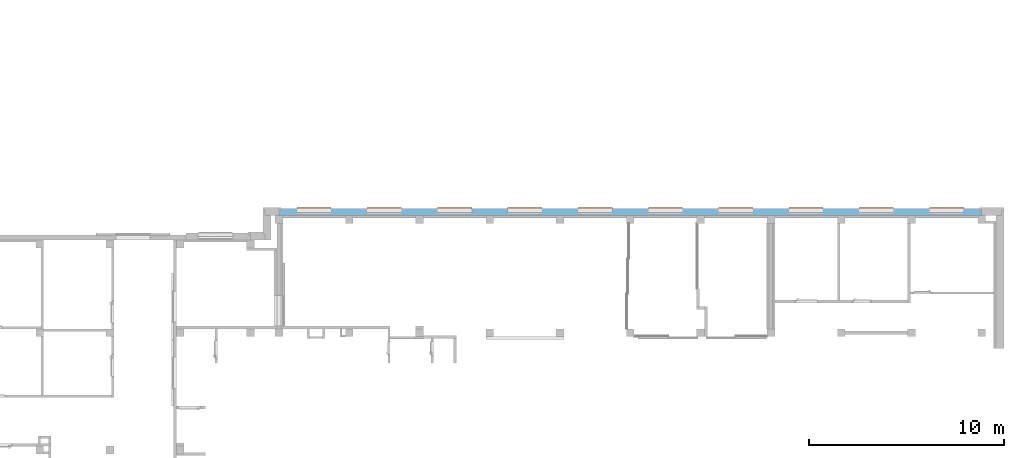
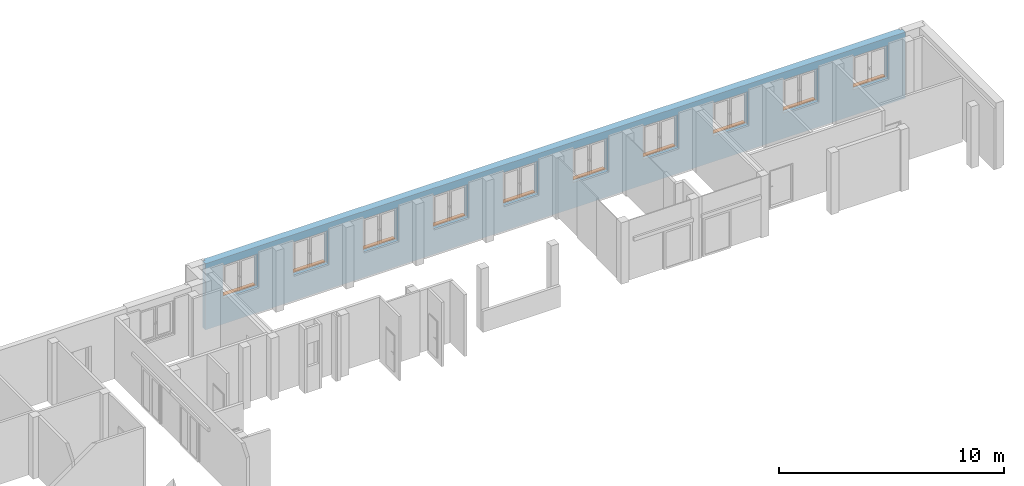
# One storey, part 34 of 37: 10 proxies, 10 openings, plus 1 element that does not belong to this part.
"""IFC4 building model written with IfcOpenShell, lengths in metres."""

import ifcopenshell
import ifcopenshell.guid

model = None  # the IFC model being written
_history = None  # IfcOwnerHistory: only IFC2X3 demands one
_inside = {}  # id of a spatial element -> (the spatial element, [elements in it])
_under = {}  # id of a project, library or spatial element -> (it, [spatial elements below it])
_declared = {}  # id of a project -> (the project, [libraries it declares])
_typed = {}  # id of a type object -> (the type object, [elements of that type])
_made_of = {}  # id of a material, layer set ... -> (it, [elements and type objects made of it])


def new_model(schema):
    """Start an empty IFC model of exactly this schema.

    Asked for "IFC4X3", IfcOpenShell would pick the latest addendum, in which some entities
    have other attributes; the version numbers below select the first issue.
    IFC2X3 requires an IfcOwnerHistory on every rooted entity: one is made here for all.
    """
    global model, _history
    if schema == "IFC4X3":
        model = ifcopenshell.file(schema_version=(4, 3, 0, 0))
    else:
        model = ifcopenshell.file(schema=schema)
    _inside.clear()
    _under.clear()
    _declared.clear()
    _typed.clear()
    _made_of.clear()
    _history = None
    if model.schema == "IFC2X3":
        org = make("IfcOrganization", Name="unknown")
        user = make(
            "IfcPersonAndOrganization",
            ThePerson=make("IfcPerson", FamilyName="unknown"),
            TheOrganization=org,
        )
        app = make(
            "IfcApplication",
            ApplicationDeveloper=org,
            Version="unknown",
            ApplicationFullName="unknown",
            ApplicationIdentifier="unknown",
        )
        _history = make(
            "IfcOwnerHistory",
            OwningUser=user,
            OwningApplication=app,
            ChangeAction="ADDED",
            CreationDate=0,
        )
    return model


def make(cls, **values):
    """One entity of the class cls with the attributes given. An attribute that is None is left unset."""
    return model.create_entity(
        cls, **{name: value for name, value in values.items() if value is not None}
    )


def entity(cls, *values):
    """Any entity or typed value of the class cls, its attributes in the order of the schema. None: left unset."""
    e = model.create_entity(cls)
    for i, value in enumerate(values):
        if value is not None:
            e[i] = value
    return e


def rooted(cls, **values):
    """An entity with a GlobalId (a new one), such as an element, a storey or a relation."""
    return make(cls, GlobalId=ifcopenshell.guid.new(), OwnerHistory=_history, **values)


def si_unit(unit_type, name, prefix=None):
    """IfcSIUnit, for example si_unit("LENGTHUNIT", "METRE", prefix="MILLI")."""
    return make("IfcSIUnit", UnitType=unit_type, Prefix=prefix, Name=name)


def converted_unit(unit_type, name, factor, base, dimensions=None, offset=None):
    """IfcConversionBasedUnit, such as the inch: factor (a typed value) times the base unit."""
    return make(
        "IfcConversionBasedUnit"
        if offset is None
        else "IfcConversionBasedUnitWithOffset",
        ConversionOffset=offset,
        Dimensions=None
        if dimensions is None
        else entity("IfcDimensionalExponents", *dimensions),
        UnitType=unit_type,
        Name=name,
        ConversionFactor=make(
            "IfcMeasureWithUnit", ValueComponent=factor, UnitComponent=base
        ),
    )


def derived_unit(unit_type, elements):
    """IfcDerivedUnit: a product of units, each with its exponent."""
    return make(
        "IfcDerivedUnit",
        Elements=[
            make("IfcDerivedUnitElement", Unit=unit, Exponent=power)
            for unit, power in elements
        ],
        UnitType=unit_type,
    )


def assignment(units):
    """IfcUnitAssignment: the units of a project."""
    return None if units is None else make("IfcUnitAssignment", Units=units)


def point(xyz):
    """IfcCartesianPoint."""
    return None if xyz is None else make("IfcCartesianPoint", Coordinates=xyz)


def direction(xyz):
    """IfcDirection."""
    return None if xyz is None else make("IfcDirection", DirectionRatios=xyz)


def frame(location, z_axis=None, x_axis=None):
    """IfcAxis2Placement3D, a coordinate frame: its origin and axes. An axis left out is left unset."""
    return make(
        "IfcAxis2Placement3D",
        Location=point(location),
        Axis=direction(z_axis),
        RefDirection=direction(x_axis),
    )


def origin():
    """The frame at (0, 0, 0) with its axes left unset."""
    return frame((0.0, 0.0, 0.0))


def origin_with_axes():
    """The frame at (0, 0, 0) with the z axis (0, 0, 1) and the x axis (1, 0, 0) written out."""
    return frame((0.0, 0.0, 0.0), z_axis=(0.0, 0.0, 1.0), x_axis=(1.0, 0.0, 0.0))


def place(relative_to, where):
    """IfcLocalPlacement: puts the frame where relative to a parent placement (None: the world)."""
    return make(
        "IfcLocalPlacement", PlacementRelTo=relative_to, RelativePlacement=where
    )


def context(
    kind, dimensions, precision=None, world=None, true_north=None, identifier=None
):
    """IfcGeometricRepresentationContext, for example the 3D "Model" context."""
    return make(
        "IfcGeometricRepresentationContext",
        ContextIdentifier=identifier,
        ContextType=kind,
        CoordinateSpaceDimension=dimensions,
        Precision=precision,
        WorldCoordinateSystem=world,
        TrueNorth=true_north,
    )


def subcontext(parent, identifier, kind, view, scale=None):
    """IfcGeometricRepresentationSubContext, for example "Body" below "Model"."""
    return make(
        "IfcGeometricRepresentationSubContext",
        ContextIdentifier=identifier,
        ContextType=kind,
        ParentContext=parent,
        TargetScale=scale,
        TargetView=view,
    )


def project(units=None, contexts=None):
    """IfcProject with its units and contexts."""
    return rooted(
        "IfcProject",
        Name="project",
        RepresentationContexts=contexts,
        UnitsInContext=assignment(units),
    )


def spatial(cls, under=None, at=None, **own):
    """A site, building, storey or space (cls), placed at a placement, below another one or the project."""
    s = rooted(cls, ObjectPlacement=at, **own)
    if under is not None:
        _under.setdefault(under.id(), (under, []))[1].append(s)
    return s


def polyline(points):
    """IfcPolyline through the points."""
    return make("IfcPolyline", Points=[point(p) for p in points])


def outline(outer, holes=None, kind="AREA"):
    """IfcArbitraryClosedProfileDef: a profile drawn as a closed curve; with holes, ...WithVoids."""
    if holes is None:
        return make("IfcArbitraryClosedProfileDef", ProfileType=kind, OuterCurve=outer)
    return make(
        "IfcArbitraryProfileDefWithVoids",
        ProfileType=kind,
        OuterCurve=outer,
        InnerCurves=holes,
    )


def extrude(swept, where, along, depth):
    """IfcExtrudedAreaSolid: the profile swept, set in the frame where, extruded along a direction by depth."""
    return make(
        "IfcExtrudedAreaSolid",
        SweptArea=swept,
        Position=where,
        ExtrudedDirection=direction(along),
        Depth=depth,
    )


def clip(a, b, op="DIFFERENCE"):
    """IfcBooleanClippingResult: the solid a cut by the half space b."""
    return make(
        "IfcBooleanClippingResult", Operator=op, FirstOperand=a, SecondOperand=b
    )


def bounded_halfspace(plane, agree, where, boundary):
    """IfcPolygonalBoundedHalfSpace: a half space limited to a polygon's prism."""
    return make(
        "IfcPolygonalBoundedHalfSpace",
        BaseSurface=make("IfcPlane", Position=plane),
        AgreementFlag=agree,
        Position=where,
        PolygonalBoundary=boundary,
    )


def faces_of(points, faces, orient=None, outer=None):
    """IfcFace entities. A face is a list of loops; a loop is a list of indices into points, from 0.

    orient and outer hold one flag for each loop. By default every Orientation is true, the
    first loop of a face is its IfcFaceOuterBound and the others are IfcFaceBound.
    """
    made = []
    for i, loops in enumerate(faces):
        bounds = []
        for j, loop in enumerate(loops):
            is_outer = j == 0 if outer is None else outer[i][j]
            bounds.append(
                make(
                    "IfcFaceOuterBound" if is_outer else "IfcFaceBound",
                    Bound=make("IfcPolyLoop", Polygon=[points[k] for k in loop]),
                    Orientation=True if orient is None else orient[i][j],
                )
            )
        made.append(make("IfcFace", Bounds=bounds))
    return made


def faceted_brep(points, faces, orient=None, outer=None, voids=None):
    """IfcFacetedBrep: a solid bounded by flat faces; with voids (closed shells), ...WithVoids."""
    shared = [point(p) for p in points]
    hull = make("IfcClosedShell", CfsFaces=faces_of(shared, faces, orient, outer))
    if voids is None:
        return make("IfcFacetedBrep", Outer=hull)
    return make(
        "IfcFacetedBrepWithVoids",
        Outer=hull,
        Voids=[
            make(cls, CfsFaces=faces_of(shared, fs, o, b)) for cls, fs, o, b in voids
        ],
    )


def shape(context_of_items, identifier, shape_type, items):
    """IfcShapeRepresentation: the items that make up one representation, for example the "Body"."""
    return make(
        "IfcShapeRepresentation",
        ContextOfItems=context_of_items,
        RepresentationIdentifier=identifier,
        RepresentationType=shape_type,
        Items=items,
    )


def source(mapping_origin, context_of_items, identifier, shape_type, items):
    """IfcRepresentationMap: a shape defined once, which mapped items show again and again."""
    return make(
        "IfcRepresentationMap",
        MappingOrigin=mapping_origin,
        MappedRepresentation=shape(context_of_items, identifier, shape_type, items),
    )


def transform(
    local_origin,
    x_axis=None,
    y_axis=None,
    z_axis=None,
    scale=None,
    scale2=None,
    scale3=None,
    uniform=True,
):
    """IfcCartesianTransformationOperator3D, or its non-uniform kind. x_axis, y_axis, z_axis: its Axis1, 2, 3."""
    if uniform:
        return make(
            "IfcCartesianTransformationOperator3D",
            Axis1=direction(x_axis),
            Axis2=direction(y_axis),
            LocalOrigin=point(local_origin),
            Scale=scale,
            Axis3=direction(z_axis),
        )
    return make(
        "IfcCartesianTransformationOperator3DnonUniform",
        Axis1=direction(x_axis),
        Axis2=direction(y_axis),
        LocalOrigin=point(local_origin),
        Scale=scale,
        Axis3=direction(z_axis),
        Scale2=scale2,
        Scale3=scale3,
    )


def mapped(mapping_source, mapping_target):
    """IfcMappedItem: shows the shape of a source again, moved by a transform."""
    return make(
        "IfcMappedItem", MappingSource=mapping_source, MappingTarget=mapping_target
    )


def material(Name=None, Category=None):
    """IfcMaterial."""
    return make("IfcMaterial", Name=Name, Category=Category)


def layer(
    of_material, thickness, ventilated=None, Name=None, Category=None, Priority=None
):
    """IfcMaterialLayer: one layer of a wall or slab, of a material (None: an air gap)."""
    return make(
        "IfcMaterialLayer",
        Material=of_material,
        LayerThickness=thickness,
        IsVentilated=ventilated,
        Name=Name,
        Category=Category,
        Priority=Priority,
    )


def layer_set(layers, Name=None):
    """IfcMaterialLayerSet."""
    return make("IfcMaterialLayerSet", MaterialLayers=layers, LayerSetName=Name)


def layer_usage(for_layer_set, set_direction, sense, offset, extent=None):
    """IfcMaterialLayerSetUsage: how a layer set lies in its element."""
    return make(
        "IfcMaterialLayerSetUsage",
        ForLayerSet=for_layer_set,
        LayerSetDirection=set_direction,
        DirectionSense=sense,
        OffsetFromReferenceLine=offset,
        ReferenceExtent=extent,
    )


def made_of(thing, what):
    """Note that an element or type object is made of a material, layer set ...; save() writes the relation."""
    if what is not None:
        _made_of.setdefault(what.id(), (what, []))[1].append(thing)
    return thing


def element(
    cls,
    number,
    at=None,
    inside=None,
    cuts=None,
    type_object=None,
    material=None,
    context=None,
    identifier="Body",
    shape_type=None,
    held_by="IfcProductDefinitionShape",
    body=None,
    shapes=None,
    **own,
):
    """One element of the class cls, such as IfcWall. Its Tag is "e" and its number.

    at: its placement. inside: the storey or other place that contains it. cuts: it is an
    opening in that element (IfcRelVoidsElement). A single representation is given by context,
    identifier, shape_type and body (its items); several are given by shapes. held_by: the class
    of the entity that holds the representations. save() writes the other relations.
    """
    e = rooted(cls, Tag="e%d" % number, ObjectPlacement=at, **own)
    if body is not None:
        shapes = [shape(context, identifier, shape_type, body)]
    if shapes is not None:
        e.Representation = make(held_by, Representations=shapes)
    if inside is not None:
        _inside.setdefault(inside.id(), (inside, []))[1].append(e)
    if cuts is not None:
        rooted(
            "IfcRelVoidsElement", RelatingBuildingElement=cuts, RelatedOpeningElement=e
        )
    if type_object is not None:
        _typed.setdefault(type_object.id(), (type_object, []))[1].append(e)
    return made_of(e, material)


def fill(opening, filler):
    """IfcRelFillsElement: the door or window that sits in an opening."""
    return rooted(
        "IfcRelFillsElement",
        RelatingOpeningElement=opening,
        RelatedBuildingElement=filler,
    )


def aggregate(whole, parts):
    """IfcRelAggregates: a whole, such as a stair, and the parts it consists of."""
    return rooted("IfcRelAggregates", RelatingObject=whole, RelatedObjects=parts)


def save(model, path):
    """Write the relations noted so far, then the file.

    IfcRelAggregates (storeys below a building ...), IfcRelContainedInSpatialStructure (elements
    in a storey), IfcRelDefinesByType, IfcRelAssociatesMaterial and IfcRelDeclares: one each for
    every whole, place, type object, material and project.
    """
    for whole, parts in _under.values():
        aggregate(whole, parts)
    for where, things in _inside.values():
        rooted(
            "IfcRelContainedInSpatialStructure",
            RelatedElements=things,
            RelatingStructure=where,
        )
    for kind, things in _typed.values():
        rooted("IfcRelDefinesByType", RelatedObjects=things, RelatingType=kind)
    for what, things in _made_of.values():
        rooted("IfcRelAssociatesMaterial", RelatedObjects=things, RelatingMaterial=what)
    for by, libraries in _declared.values():
        rooted("IfcRelDeclares", RelatingContext=by, RelatedDefinitions=libraries)
    model.write(path)


model = new_model("IFC4")

# Units and contexts
model_context = context("Model", 3, precision=1e-05, world=origin())
body_context = subcontext(model_context, "Body", "Model", "MODEL_VIEW")
ifc_project = project(units=[si_unit("LENGTHUNIT", "METRE"), si_unit("AREAUNIT", "SQUARE_METRE"), si_unit("VOLUMEUNIT", "CUBIC_METRE"), si_unit("MASSUNIT", "GRAM", prefix="KILO"), converted_unit("PLANEANGLEUNIT", "DEGREE", entity("IfcPlaneAngleMeasure", 0.0174532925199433), si_unit("PLANEANGLEUNIT", "RADIAN"), dimensions=[0, 0, 0, 0, 0, 0, 0]), derived_unit("THERMALTRANSMITTANCEUNIT", [(si_unit("POWERUNIT", "WATT"), 1), (si_unit("THERMODYNAMICTEMPERATUREUNIT", "KELVIN"), -1), (si_unit("LENGTHUNIT", "METRE"), -2)]), derived_unit("VOLUMETRICFLOWRATEUNIT", [(si_unit("LENGTHUNIT", "METRE"), 3), (converted_unit("TIMEUNIT", "hour", entity("IfcTimeMeasure", 3600.0), si_unit("TIMEUNIT", "SECOND"), dimensions=[0, 0, 1, 0, 0, 0, 0]), -1), (si_unit("LENGTHUNIT", "METRE"), -1)])], contexts=[model_context])

# Site, building, storey
site_placement = place(None, origin())
site = spatial("IfcSite", under=ifc_project, at=site_placement, Name="3. ASŘ", CompositionType="ELEMENT")
building_placement = place(site_placement, origin())
building = spatial("IfcBuilding", under=site, at=building_placement, Name="Pavilon B", CompositionType="ELEMENT")
storey_placement = place(building_placement, origin())
storey = spatial("IfcBuildingStorey", under=building, at=storey_placement, Name="Půdorys 1.NP", CompositionType="ELEMENT", Elevation=0.0)

# Wall, openings, proxies
ifc_material_1 = material(Name="ZELEZOBETONOVÁ KCE")
ifc_layer_1 = layer(ifc_material_1, 0.250000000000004)
ifc_material_2 = material(Name="MINERÁLNÍ VATA")
ifc_layer_2 = layer(ifc_material_2, 0.119999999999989)
ifc_layer_set = layer_set([ifc_layer_1, ifc_layer_2])
ifc_layer_usage = layer_usage(ifc_layer_set, "AXIS2", "POSITIVE", 0.0)
wall_placement = place(storey_placement, frame((49.1, -15.6, -0.1), z_axis=(0.0, 0.0, 1.0), x_axis=(1.0, 1.01054966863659e-16, 0.0)))
wall = element("IfcWall", 1, at=wall_placement, inside=storey, material=ifc_layer_usage, Name="ZELEZOBETONOVÁ KCE", context=body_context, shape_type="Clipping", body=[
    clip(extrude(outline(polyline([(0.0, 0.0), (36.0, 0.0), (36.0, 0.25), (35.88, 0.25), (35.88, 0.37), (0.12, 0.37), (0.12, 0.25), (2.52637417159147e-17, 0.25), (0.0, 0.0)])), origin_with_axes(), (0.0, 0.0, 1.0), 3.6), bounded_halfspace(frame((18.0, 0.31, 0.1), z_axis=(0.0, 0.0, 1.0), x_axis=(-1.01054966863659e-16, -1.0, 0.0)), True, origin_with_axes(), polyline([(0.12, 0.37), (0.12, 0.25), (35.88, 0.25), (35.88, 0.37), (0.12, 0.37)]))),
])
opening_1_placement = place(wall_placement, frame((27.9, 0.369999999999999, 1.4), z_axis=(0.0, -1.0, 0.0), x_axis=(0.0, 0.0, 1.0)))
opening_1 = element("IfcOpeningElement", 2, at=opening_1_placement, cuts=wall, Name="Okenní otvor", ObjectType="Opening", context=body_context, shape_type="SweptSolid", body=[
    extrude(outline(polyline([(0.0, 1.8), (1.8, 1.8), (1.8, 0.0), (0.0, 0.0), (0.0, 1.8)])), origin_with_axes(), (0.0, 0.0, 1.0), 0.12),
    extrude(outline(polyline([(0.0, 1.8), (1.8, 1.8), (1.8, 0.0), (0.0, 0.0), (0.0, 1.8)])), frame((0.0, 0.0, 0.12), z_axis=(0.0, 0.0, 1.0), x_axis=(1.0, 0.0, 0.0)), (0.0, 0.0, 1.0), 0.25),
])
opening_2_placement = place(wall_placement, frame((31.5, 0.369999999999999, 1.4), z_axis=(0.0, -1.0, 0.0), x_axis=(0.0, 0.0, 1.0)))
opening_2 = element("IfcOpeningElement", 3, at=opening_2_placement, cuts=wall, Name="Okenní otvor", ObjectType="Opening", context=body_context, shape_type="SweptSolid", body=[
    extrude(outline(polyline([(0.0, 1.8), (1.8, 1.8), (1.8, 0.0), (0.0, 0.0), (0.0, 1.8)])), origin_with_axes(), (0.0, 0.0, 1.0), 0.12),
    extrude(outline(polyline([(0.0, 1.8), (1.8, 1.8), (1.8, 0.0), (0.0, 0.0), (0.0, 1.8)])), frame((0.0, 0.0, 0.12), z_axis=(0.0, 0.0, 1.0), x_axis=(1.0, 0.0, 0.0)), (0.0, 0.0, 1.0), 0.25),
])
opening_3_placement = place(wall_placement, frame((35.1, 0.37, 1.4), z_axis=(0.0, -1.0, 0.0), x_axis=(0.0, 0.0, 1.0)))
opening_3 = element("IfcOpeningElement", 4, at=opening_3_placement, cuts=wall, Name="Okenní otvor", ObjectType="Opening", context=body_context, shape_type="SweptSolid", body=[
    extrude(outline(polyline([(0.0, 1.8), (1.8, 1.8), (1.8, 0.0), (0.0, 0.0), (0.0, 1.8)])), origin_with_axes(), (0.0, 0.0, 1.0), 0.12),
    extrude(outline(polyline([(0.0, 1.8), (1.8, 1.8), (1.8, 0.0), (0.0, 0.0), (0.0, 1.8)])), frame((0.0, 0.0, 0.12), z_axis=(0.0, 0.0, 1.0), x_axis=(1.0, 0.0, 0.0)), (0.0, 0.0, 1.0), 0.25),
])
opening_4_placement = place(wall_placement, frame((24.3, 0.369999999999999, 1.4), z_axis=(0.0, -1.0, 0.0), x_axis=(0.0, 0.0, 1.0)))
opening_4 = element("IfcOpeningElement", 5, at=opening_4_placement, cuts=wall, Name="Okenní otvor", ObjectType="Opening", context=body_context, shape_type="SweptSolid", body=[
    extrude(outline(polyline([(0.0, 1.8), (1.8, 1.8), (1.8, 0.0), (0.0, 0.0), (0.0, 1.8)])), origin_with_axes(), (0.0, 0.0, 1.0), 0.12),
    extrude(outline(polyline([(0.0, 1.8), (1.8, 1.8), (1.8, 0.0), (0.0, 0.0), (0.0, 1.8)])), frame((0.0, 0.0, 0.12), z_axis=(0.0, 0.0, 1.0), x_axis=(1.0, 0.0, 0.0)), (0.0, 0.0, 1.0), 0.25),
])
opening_5_placement = place(wall_placement, frame((20.7, 0.37, 1.4), z_axis=(0.0, -1.0, 0.0), x_axis=(0.0, 0.0, 1.0)))
opening_5 = element("IfcOpeningElement", 6, at=opening_5_placement, cuts=wall, Name="Okenní otvor", ObjectType="Opening", context=body_context, shape_type="SweptSolid", body=[
    extrude(outline(polyline([(0.0, 1.8), (1.8, 1.8), (1.8, 0.0), (0.0, 0.0), (0.0, 1.8)])), origin_with_axes(), (0.0, 0.0, 1.0), 0.12),
    extrude(outline(polyline([(0.0, 1.8), (1.8, 1.8), (1.8, 0.0), (0.0, 0.0), (0.0, 1.8)])), frame((0.0, 0.0, 0.12), z_axis=(0.0, 0.0, 1.0), x_axis=(1.0, 0.0, 0.0)), (0.0, 0.0, 1.0), 0.25),
])
opening_6_placement = place(wall_placement, frame((17.1, 0.37, 1.4), z_axis=(0.0, -1.0, 0.0), x_axis=(0.0, 0.0, 1.0)))
opening_6 = element("IfcOpeningElement", 7, at=opening_6_placement, cuts=wall, Name="Okenní otvor", ObjectType="Opening", context=body_context, shape_type="SweptSolid", body=[
    extrude(outline(polyline([(0.0, 1.8), (1.8, 1.8), (1.8, 0.0), (0.0, 0.0), (0.0, 1.8)])), origin_with_axes(), (0.0, 0.0, 1.0), 0.12),
    extrude(outline(polyline([(0.0, 1.8), (1.8, 1.8), (1.8, 0.0), (0.0, 0.0), (0.0, 1.8)])), frame((0.0, 0.0, 0.12), z_axis=(0.0, 0.0, 1.0), x_axis=(1.0, 0.0, 0.0)), (0.0, 0.0, 1.0), 0.25),
])
opening_7_placement = place(wall_placement, frame((13.5, 0.369999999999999, 1.4), z_axis=(0.0, -1.0, 0.0), x_axis=(0.0, 0.0, 1.0)))
opening_7 = element("IfcOpeningElement", 8, at=opening_7_placement, cuts=wall, Name="Okenní otvor", ObjectType="Opening", context=body_context, shape_type="SweptSolid", body=[
    extrude(outline(polyline([(0.0, 1.8), (1.8, 1.8), (1.8, 0.0), (0.0, 0.0), (0.0, 1.8)])), origin_with_axes(), (0.0, 0.0, 1.0), 0.12),
    extrude(outline(polyline([(0.0, 1.8), (1.8, 1.8), (1.8, 0.0), (0.0, 0.0), (0.0, 1.8)])), frame((0.0, 0.0, 0.12), z_axis=(0.0, 0.0, 1.0), x_axis=(1.0, 0.0, 0.0)), (0.0, 0.0, 1.0), 0.25),
])
opening_8_placement = place(wall_placement, frame((9.9, 0.369999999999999, 1.4), z_axis=(0.0, -1.0, 0.0), x_axis=(0.0, 0.0, 1.0)))
opening_8 = element("IfcOpeningElement", 9, at=opening_8_placement, cuts=wall, Name="Okenní otvor", ObjectType="Opening", context=body_context, shape_type="SweptSolid", body=[
    extrude(outline(polyline([(0.0, 1.8), (1.8, 1.8), (1.8, 0.0), (0.0, 0.0), (0.0, 1.8)])), origin_with_axes(), (0.0, 0.0, 1.0), 0.12),
    extrude(outline(polyline([(0.0, 1.8), (1.8, 1.8), (1.8, 0.0), (0.0, 0.0), (0.0, 1.8)])), frame((0.0, 0.0, 0.12), z_axis=(0.0, 0.0, 1.0), x_axis=(1.0, 0.0, 0.0)), (0.0, 0.0, 1.0), 0.25),
])
opening_9_placement = place(wall_placement, frame((6.3, 0.369999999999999, 1.4), z_axis=(0.0, -1.0, 0.0), x_axis=(0.0, 0.0, 1.0)))
opening_9 = element("IfcOpeningElement", 10, at=opening_9_placement, cuts=wall, Name="Okenní otvor", ObjectType="Opening", context=body_context, shape_type="SweptSolid", body=[
    extrude(outline(polyline([(0.0, 1.8), (1.8, 1.8), (1.8, 0.0), (0.0, 0.0), (0.0, 1.8)])), origin_with_axes(), (0.0, 0.0, 1.0), 0.12),
    extrude(outline(polyline([(0.0, 1.8), (1.8, 1.8), (1.8, 0.0), (0.0, 0.0), (0.0, 1.8)])), frame((0.0, 0.0, 0.12), z_axis=(0.0, 0.0, 1.0), x_axis=(1.0, 0.0, 0.0)), (0.0, 0.0, 1.0), 0.25),
])
opening_10_placement = place(wall_placement, frame((2.7, 0.37, 1.4), z_axis=(0.0, -1.0, 0.0), x_axis=(0.0, 0.0, 1.0)))
opening_10 = element("IfcOpeningElement", 11, at=opening_10_placement, cuts=wall, Name="Okenní otvor", ObjectType="Opening", context=body_context, shape_type="SweptSolid", body=[
    extrude(outline(polyline([(0.0, 1.8), (1.8, 1.8), (1.8, 0.0), (0.0, 0.0), (0.0, 1.8)])), origin_with_axes(), (0.0, 0.0, 1.0), 0.12),
    extrude(outline(polyline([(0.0, 1.8), (1.8, 1.8), (1.8, 0.0), (0.0, 0.0), (0.0, 1.8)])), frame((0.0, 0.0, 0.12), z_axis=(0.0, 0.0, 1.0), x_axis=(1.0, 0.0, 0.0)), (0.0, 0.0, 1.0), 0.25),
])
ifc_material_3 = material(Name="PLECH")
shared_shape_1 = source(origin_with_axes(), body_context, "Body", "Brep", [
    faceted_brep([(1.76, 0.0, 0.0), (1.76, 0.0, 0.005), (1.76, 0.2, 0.005), (1.76, 0.2, 0.0), (0.04, 0.0, 0.0), (0.04, 0.2, 0.0), (0.04, 0.2, 0.005), (0.04, 0.0, 0.005), (0.02, 0.0, 0.0), (0.02, -0.035, 0.0), (1.78, -0.035, 0.0), (1.78, 0.0, 0.0), (1.78, 0.0, 0.005), (1.78, -0.04, 0.005), (0.02, -0.04, 0.005), (0.02, 0.0, 0.005), (1.78, -0.035, -0.025), (1.78, -0.04, -0.025), (0.02, -0.04, -0.025), (0.02, -0.035, -0.025)], [[[0, 1, 2, 3]], [[4, 5, 6, 7]], [[3, 5, 4, 8, 9, 10, 11, 0]], [[2, 6, 5, 3]], [[1, 12, 13, 14, 15, 7, 6, 2]], [[11, 10, 16, 17, 13, 12]], [[8, 15, 14, 18, 19, 9]], [[12, 1, 0, 11]], [[7, 15, 8, 4]], [[17, 18, 14, 13]], [[16, 19, 18, 17]], [[10, 9, 19, 16]]], orient=[[False], [False], [False], [False], [False], [False], [False], [False], [False], [False], [False], [False]]),
    faceted_brep([(1.78, 0.0, 0.0), (1.78, 0.0, 0.005), (1.78, 0.2, 0.005), (1.78, 0.2, 0.0), (1.76, 0.0, 0.0), (1.76, 0.2, 0.0), (1.76, 0.2, 0.005), (1.76, 0.0, 0.005)], [[[0, 1, 2, 3]], [[4, 5, 6, 7]], [[3, 5, 4, 0]], [[2, 6, 5, 3]], [[1, 7, 6, 2]], [[0, 4, 7, 1]]], orient=[[False], [False], [False], [False], [False], [False]]),
    faceted_brep([(0.04, 0.0, 0.0), (0.04, 0.0, 0.005), (0.04, 0.2, 0.005), (0.04, 0.2, 0.0), (0.02, 0.0, 0.0), (0.02, 0.2, 0.0), (0.02, 0.2, 0.005), (0.02, 0.0, 0.005)], [[[0, 1, 2, 3]], [[4, 5, 6, 7]], [[3, 5, 4, 0]], [[2, 6, 5, 3]], [[1, 7, 6, 2]], [[0, 4, 7, 1]]], orient=[[False], [False], [False], [False], [False], [False]]),
])
proxy_1_placement = place(opening_1_placement, frame((0.0, 0.0, 0.0), z_axis=(1.0, 0.0, 0.0), x_axis=(0.0, 1.0, 0.0)))
proxy_1 = element("IfcBuildingElementProxy", 12, at=proxy_1_placement, inside=storey, material=ifc_material_3, Name="Parapet vnější", context=body_context, shape_type="MappedRepresentation", body=[
    mapped(shared_shape_1, transform((0.0, 0.0, 0.0), x_axis=(1.0, 0.0, 0.0), y_axis=(0.0, 1.0, 0.0), z_axis=(0.0, 0.0, 1.0), scale=1.0)),
])
fill(opening_1, proxy_1)
ifc_material_4 = material(Name="PLECH")
shared_shape_2 = source(origin_with_axes(), body_context, "Body", "Brep", [
    faceted_brep([(1.76, 0.0, 0.0), (1.76, 0.0, 0.005), (1.76, 0.2, 0.005), (1.76, 0.2, 0.0), (0.04, 0.0, 0.0), (0.04, 0.2, 0.0), (0.04, 0.2, 0.005), (0.04, 0.0, 0.005), (0.02, 0.0, 0.0), (0.02, -0.035, 0.0), (1.78, -0.035, 0.0), (1.78, 0.0, 0.0), (1.78, 0.0, 0.005), (1.78, -0.04, 0.005), (0.02, -0.04, 0.005), (0.02, 0.0, 0.005), (1.78, -0.035, -0.025), (1.78, -0.04, -0.025), (0.02, -0.04, -0.025), (0.02, -0.035, -0.025)], [[[0, 1, 2, 3]], [[4, 5, 6, 7]], [[3, 5, 4, 8, 9, 10, 11, 0]], [[2, 6, 5, 3]], [[1, 12, 13, 14, 15, 7, 6, 2]], [[11, 10, 16, 17, 13, 12]], [[8, 15, 14, 18, 19, 9]], [[12, 1, 0, 11]], [[7, 15, 8, 4]], [[17, 18, 14, 13]], [[16, 19, 18, 17]], [[10, 9, 19, 16]]], orient=[[False], [False], [False], [False], [False], [False], [False], [False], [False], [False], [False], [False]]),
    faceted_brep([(1.78, 0.0, 0.0), (1.78, 0.0, 0.005), (1.78, 0.2, 0.005), (1.78, 0.2, 0.0), (1.76, 0.0, 0.0), (1.76, 0.2, 0.0), (1.76, 0.2, 0.005), (1.76, 0.0, 0.005)], [[[0, 1, 2, 3]], [[4, 5, 6, 7]], [[3, 5, 4, 0]], [[2, 6, 5, 3]], [[1, 7, 6, 2]], [[0, 4, 7, 1]]], orient=[[False], [False], [False], [False], [False], [False]]),
    faceted_brep([(0.04, 0.0, 0.0), (0.04, 0.0, 0.005), (0.04, 0.2, 0.005), (0.04, 0.2, 0.0), (0.02, 0.0, 0.0), (0.02, 0.2, 0.0), (0.02, 0.2, 0.005), (0.02, 0.0, 0.005)], [[[0, 1, 2, 3]], [[4, 5, 6, 7]], [[3, 5, 4, 0]], [[2, 6, 5, 3]], [[1, 7, 6, 2]], [[0, 4, 7, 1]]], orient=[[False], [False], [False], [False], [False], [False]]),
])
proxy_2_placement = place(opening_2_placement, frame((0.0, 0.0, 0.0), z_axis=(1.0, 0.0, 0.0), x_axis=(0.0, 1.0, 0.0)))
proxy_2 = element("IfcBuildingElementProxy", 13, at=proxy_2_placement, inside=storey, material=ifc_material_4, Name="Parapet vnější", context=body_context, shape_type="MappedRepresentation", body=[
    mapped(shared_shape_2, transform((0.0, 0.0, 0.0), x_axis=(1.0, 0.0, 0.0), y_axis=(0.0, 1.0, 0.0), z_axis=(0.0, 0.0, 1.0), scale=1.0)),
])
fill(opening_2, proxy_2)
ifc_material_5 = material(Name="PLECH")
shared_shape_3 = source(origin_with_axes(), body_context, "Body", "Brep", [
    faceted_brep([(1.76, 0.0, 0.0), (1.76, 0.0, 0.005), (1.76, 0.2, 0.005), (1.76, 0.2, 0.0), (0.04, 0.0, 0.0), (0.04, 0.2, 0.0), (0.04, 0.2, 0.005), (0.04, 0.0, 0.005), (0.02, 0.0, 0.0), (0.02, -0.035, 0.0), (1.78, -0.035, 0.0), (1.78, 0.0, 0.0), (1.78, 0.0, 0.005), (1.78, -0.04, 0.005), (0.02, -0.04, 0.005), (0.02, 0.0, 0.005), (1.78, -0.035, -0.025), (1.78, -0.04, -0.025), (0.02, -0.04, -0.025), (0.02, -0.035, -0.025)], [[[0, 1, 2, 3]], [[4, 5, 6, 7]], [[3, 5, 4, 8, 9, 10, 11, 0]], [[2, 6, 5, 3]], [[1, 12, 13, 14, 15, 7, 6, 2]], [[11, 10, 16, 17, 13, 12]], [[8, 15, 14, 18, 19, 9]], [[12, 1, 0, 11]], [[7, 15, 8, 4]], [[17, 18, 14, 13]], [[16, 19, 18, 17]], [[10, 9, 19, 16]]], orient=[[False], [False], [False], [False], [False], [False], [False], [False], [False], [False], [False], [False]]),
    faceted_brep([(1.78, 0.0, 0.0), (1.78, 0.0, 0.005), (1.78, 0.2, 0.005), (1.78, 0.2, 0.0), (1.76, 0.0, 0.0), (1.76, 0.2, 0.0), (1.76, 0.2, 0.005), (1.76, 0.0, 0.005)], [[[0, 1, 2, 3]], [[4, 5, 6, 7]], [[3, 5, 4, 0]], [[2, 6, 5, 3]], [[1, 7, 6, 2]], [[0, 4, 7, 1]]], orient=[[False], [False], [False], [False], [False], [False]]),
    faceted_brep([(0.04, 0.0, 0.0), (0.04, 0.0, 0.005), (0.04, 0.2, 0.005), (0.04, 0.2, 0.0), (0.02, 0.0, 0.0), (0.02, 0.2, 0.0), (0.02, 0.2, 0.005), (0.02, 0.0, 0.005)], [[[0, 1, 2, 3]], [[4, 5, 6, 7]], [[3, 5, 4, 0]], [[2, 6, 5, 3]], [[1, 7, 6, 2]], [[0, 4, 7, 1]]], orient=[[False], [False], [False], [False], [False], [False]]),
])
proxy_3_placement = place(opening_3_placement, frame((0.0, 0.0, 0.0), z_axis=(1.0, 0.0, 0.0), x_axis=(0.0, 1.0, 0.0)))
proxy_3 = element("IfcBuildingElementProxy", 14, at=proxy_3_placement, inside=storey, material=ifc_material_5, Name="Parapet vnější", context=body_context, shape_type="MappedRepresentation", body=[
    mapped(shared_shape_3, transform((0.0, 0.0, 0.0), x_axis=(1.0, 0.0, 0.0), y_axis=(0.0, 1.0, 0.0), z_axis=(0.0, 0.0, 1.0), scale=1.0)),
])
fill(opening_3, proxy_3)
ifc_material_6 = material(Name="PLECH")
shared_shape_4 = source(origin_with_axes(), body_context, "Body", "Brep", [
    faceted_brep([(1.76, 0.0, 0.0), (1.76, 0.0, 0.005), (1.76, 0.2, 0.005), (1.76, 0.2, 0.0), (0.04, 0.0, 0.0), (0.04, 0.2, 0.0), (0.04, 0.2, 0.005), (0.04, 0.0, 0.005), (0.02, 0.0, 0.0), (0.02, -0.035, 0.0), (1.78, -0.035, 0.0), (1.78, 0.0, 0.0), (1.78, 0.0, 0.005), (1.78, -0.04, 0.005), (0.02, -0.04, 0.005), (0.02, 0.0, 0.005), (1.78, -0.035, -0.025), (1.78, -0.04, -0.025), (0.02, -0.04, -0.025), (0.02, -0.035, -0.025)], [[[0, 1, 2, 3]], [[4, 5, 6, 7]], [[3, 5, 4, 8, 9, 10, 11, 0]], [[2, 6, 5, 3]], [[1, 12, 13, 14, 15, 7, 6, 2]], [[11, 10, 16, 17, 13, 12]], [[8, 15, 14, 18, 19, 9]], [[12, 1, 0, 11]], [[7, 15, 8, 4]], [[17, 18, 14, 13]], [[16, 19, 18, 17]], [[10, 9, 19, 16]]], orient=[[False], [False], [False], [False], [False], [False], [False], [False], [False], [False], [False], [False]]),
    faceted_brep([(1.78, 0.0, 0.0), (1.78, 0.0, 0.005), (1.78, 0.2, 0.005), (1.78, 0.2, 0.0), (1.76, 0.0, 0.0), (1.76, 0.2, 0.0), (1.76, 0.2, 0.005), (1.76, 0.0, 0.005)], [[[0, 1, 2, 3]], [[4, 5, 6, 7]], [[3, 5, 4, 0]], [[2, 6, 5, 3]], [[1, 7, 6, 2]], [[0, 4, 7, 1]]], orient=[[False], [False], [False], [False], [False], [False]]),
    faceted_brep([(0.04, 0.0, 0.0), (0.04, 0.0, 0.005), (0.04, 0.2, 0.005), (0.04, 0.2, 0.0), (0.02, 0.0, 0.0), (0.02, 0.2, 0.0), (0.02, 0.2, 0.005), (0.02, 0.0, 0.005)], [[[0, 1, 2, 3]], [[4, 5, 6, 7]], [[3, 5, 4, 0]], [[2, 6, 5, 3]], [[1, 7, 6, 2]], [[0, 4, 7, 1]]], orient=[[False], [False], [False], [False], [False], [False]]),
])
proxy_4_placement = place(opening_4_placement, frame((0.0, 0.0, 0.0), z_axis=(1.0, 0.0, 0.0), x_axis=(0.0, 1.0, 0.0)))
proxy_4 = element("IfcBuildingElementProxy", 15, at=proxy_4_placement, inside=storey, material=ifc_material_6, Name="Parapet vnější", context=body_context, shape_type="MappedRepresentation", body=[
    mapped(shared_shape_4, transform((0.0, 0.0, 0.0), x_axis=(1.0, 0.0, 0.0), y_axis=(0.0, 1.0, 0.0), z_axis=(0.0, 0.0, 1.0), scale=1.0)),
])
fill(opening_4, proxy_4)
ifc_material_7 = material(Name="PLECH")
shared_shape_5 = source(origin_with_axes(), body_context, "Body", "Brep", [
    faceted_brep([(1.76, 0.0, 0.0), (1.76, 0.0, 0.005), (1.76, 0.2, 0.005), (1.76, 0.2, 0.0), (0.04, 0.0, 0.0), (0.04, 0.2, 0.0), (0.04, 0.2, 0.005), (0.04, 0.0, 0.005), (0.02, 0.0, 0.0), (0.02, -0.035, 0.0), (1.78, -0.035, 0.0), (1.78, 0.0, 0.0), (1.78, 0.0, 0.005), (1.78, -0.04, 0.005), (0.02, -0.04, 0.005), (0.02, 0.0, 0.005), (1.78, -0.035, -0.025), (1.78, -0.04, -0.025), (0.02, -0.04, -0.025), (0.02, -0.035, -0.025)], [[[0, 1, 2, 3]], [[4, 5, 6, 7]], [[3, 5, 4, 8, 9, 10, 11, 0]], [[2, 6, 5, 3]], [[1, 12, 13, 14, 15, 7, 6, 2]], [[11, 10, 16, 17, 13, 12]], [[8, 15, 14, 18, 19, 9]], [[12, 1, 0, 11]], [[7, 15, 8, 4]], [[17, 18, 14, 13]], [[16, 19, 18, 17]], [[10, 9, 19, 16]]], orient=[[False], [False], [False], [False], [False], [False], [False], [False], [False], [False], [False], [False]]),
    faceted_brep([(1.78, 0.0, 0.0), (1.78, 0.0, 0.005), (1.78, 0.2, 0.005), (1.78, 0.2, 0.0), (1.76, 0.0, 0.0), (1.76, 0.2, 0.0), (1.76, 0.2, 0.005), (1.76, 0.0, 0.005)], [[[0, 1, 2, 3]], [[4, 5, 6, 7]], [[3, 5, 4, 0]], [[2, 6, 5, 3]], [[1, 7, 6, 2]], [[0, 4, 7, 1]]], orient=[[False], [False], [False], [False], [False], [False]]),
    faceted_brep([(0.04, 0.0, 0.0), (0.04, 0.0, 0.005), (0.04, 0.2, 0.005), (0.04, 0.2, 0.0), (0.02, 0.0, 0.0), (0.02, 0.2, 0.0), (0.02, 0.2, 0.005), (0.02, 0.0, 0.005)], [[[0, 1, 2, 3]], [[4, 5, 6, 7]], [[3, 5, 4, 0]], [[2, 6, 5, 3]], [[1, 7, 6, 2]], [[0, 4, 7, 1]]], orient=[[False], [False], [False], [False], [False], [False]]),
])
proxy_5_placement = place(opening_5_placement, frame((0.0, 0.0, 0.0), z_axis=(1.0, 0.0, 0.0), x_axis=(0.0, 1.0, 0.0)))
proxy_5 = element("IfcBuildingElementProxy", 16, at=proxy_5_placement, inside=storey, material=ifc_material_7, Name="Parapet vnější", context=body_context, shape_type="MappedRepresentation", body=[
    mapped(shared_shape_5, transform((0.0, 0.0, 0.0), x_axis=(1.0, 0.0, 0.0), y_axis=(0.0, 1.0, 0.0), z_axis=(0.0, 0.0, 1.0), scale=1.0)),
])
fill(opening_5, proxy_5)
ifc_material_8 = material(Name="PLECH")
shared_shape_6 = source(origin_with_axes(), body_context, "Body", "Brep", [
    faceted_brep([(1.76, 0.0, 0.0), (1.76, 0.0, 0.005), (1.76, 0.2, 0.005), (1.76, 0.2, 0.0), (0.04, 0.0, 0.0), (0.04, 0.2, 0.0), (0.04, 0.2, 0.005), (0.04, 0.0, 0.005), (0.02, 0.0, 0.0), (0.02, -0.035, 0.0), (1.78, -0.035, 0.0), (1.78, 0.0, 0.0), (1.78, 0.0, 0.005), (1.78, -0.04, 0.005), (0.02, -0.04, 0.005), (0.02, 0.0, 0.005), (1.78, -0.035, -0.025), (1.78, -0.04, -0.025), (0.02, -0.04, -0.025), (0.02, -0.035, -0.025)], [[[0, 1, 2, 3]], [[4, 5, 6, 7]], [[3, 5, 4, 8, 9, 10, 11, 0]], [[2, 6, 5, 3]], [[1, 12, 13, 14, 15, 7, 6, 2]], [[11, 10, 16, 17, 13, 12]], [[8, 15, 14, 18, 19, 9]], [[12, 1, 0, 11]], [[7, 15, 8, 4]], [[17, 18, 14, 13]], [[16, 19, 18, 17]], [[10, 9, 19, 16]]], orient=[[False], [False], [False], [False], [False], [False], [False], [False], [False], [False], [False], [False]]),
    faceted_brep([(1.78, 0.0, 0.0), (1.78, 0.0, 0.005), (1.78, 0.2, 0.005), (1.78, 0.2, 0.0), (1.76, 0.0, 0.0), (1.76, 0.2, 0.0), (1.76, 0.2, 0.005), (1.76, 0.0, 0.005)], [[[0, 1, 2, 3]], [[4, 5, 6, 7]], [[3, 5, 4, 0]], [[2, 6, 5, 3]], [[1, 7, 6, 2]], [[0, 4, 7, 1]]], orient=[[False], [False], [False], [False], [False], [False]]),
    faceted_brep([(0.04, 0.0, 0.0), (0.04, 0.0, 0.005), (0.04, 0.2, 0.005), (0.04, 0.2, 0.0), (0.02, 0.0, 0.0), (0.02, 0.2, 0.0), (0.02, 0.2, 0.005), (0.02, 0.0, 0.005)], [[[0, 1, 2, 3]], [[4, 5, 6, 7]], [[3, 5, 4, 0]], [[2, 6, 5, 3]], [[1, 7, 6, 2]], [[0, 4, 7, 1]]], orient=[[False], [False], [False], [False], [False], [False]]),
])
proxy_6_placement = place(opening_6_placement, frame((0.0, 0.0, 0.0), z_axis=(1.0, 0.0, 0.0), x_axis=(0.0, 1.0, 0.0)))
proxy_6 = element("IfcBuildingElementProxy", 17, at=proxy_6_placement, inside=storey, material=ifc_material_8, Name="Parapet vnější", context=body_context, shape_type="MappedRepresentation", body=[
    mapped(shared_shape_6, transform((0.0, 0.0, 0.0), x_axis=(1.0, 0.0, 0.0), y_axis=(0.0, 1.0, 0.0), z_axis=(0.0, 0.0, 1.0), scale=1.0)),
])
fill(opening_6, proxy_6)
ifc_material_9 = material(Name="PLECH")
shared_shape_7 = source(origin_with_axes(), body_context, "Body", "Brep", [
    faceted_brep([(1.76, 0.0, 0.0), (1.76, 0.0, 0.005), (1.76, 0.2, 0.005), (1.76, 0.2, 0.0), (0.04, 0.0, 0.0), (0.04, 0.2, 0.0), (0.04, 0.2, 0.005), (0.04, 0.0, 0.005), (0.02, 0.0, 0.0), (0.02, -0.035, 0.0), (1.78, -0.035, 0.0), (1.78, 0.0, 0.0), (1.78, 0.0, 0.005), (1.78, -0.04, 0.005), (0.02, -0.04, 0.005), (0.02, 0.0, 0.005), (1.78, -0.035, -0.025), (1.78, -0.04, -0.025), (0.02, -0.04, -0.025), (0.02, -0.035, -0.025)], [[[0, 1, 2, 3]], [[4, 5, 6, 7]], [[3, 5, 4, 8, 9, 10, 11, 0]], [[2, 6, 5, 3]], [[1, 12, 13, 14, 15, 7, 6, 2]], [[11, 10, 16, 17, 13, 12]], [[8, 15, 14, 18, 19, 9]], [[12, 1, 0, 11]], [[7, 15, 8, 4]], [[17, 18, 14, 13]], [[16, 19, 18, 17]], [[10, 9, 19, 16]]], orient=[[False], [False], [False], [False], [False], [False], [False], [False], [False], [False], [False], [False]]),
    faceted_brep([(1.78, 0.0, 0.0), (1.78, 0.0, 0.005), (1.78, 0.2, 0.005), (1.78, 0.2, 0.0), (1.76, 0.0, 0.0), (1.76, 0.2, 0.0), (1.76, 0.2, 0.005), (1.76, 0.0, 0.005)], [[[0, 1, 2, 3]], [[4, 5, 6, 7]], [[3, 5, 4, 0]], [[2, 6, 5, 3]], [[1, 7, 6, 2]], [[0, 4, 7, 1]]], orient=[[False], [False], [False], [False], [False], [False]]),
    faceted_brep([(0.04, 0.0, 0.0), (0.04, 0.0, 0.005), (0.04, 0.2, 0.005), (0.04, 0.2, 0.0), (0.02, 0.0, 0.0), (0.02, 0.2, 0.0), (0.02, 0.2, 0.005), (0.02, 0.0, 0.005)], [[[0, 1, 2, 3]], [[4, 5, 6, 7]], [[3, 5, 4, 0]], [[2, 6, 5, 3]], [[1, 7, 6, 2]], [[0, 4, 7, 1]]], orient=[[False], [False], [False], [False], [False], [False]]),
])
proxy_7_placement = place(opening_7_placement, frame((0.0, 0.0, 0.0), z_axis=(1.0, 0.0, 0.0), x_axis=(0.0, 1.0, 0.0)))
proxy_7 = element("IfcBuildingElementProxy", 18, at=proxy_7_placement, inside=storey, material=ifc_material_9, Name="Parapet vnější", context=body_context, shape_type="MappedRepresentation", body=[
    mapped(shared_shape_7, transform((0.0, 0.0, 0.0), x_axis=(1.0, 0.0, 0.0), y_axis=(0.0, 1.0, 0.0), z_axis=(0.0, 0.0, 1.0), scale=1.0)),
])
fill(opening_7, proxy_7)
ifc_material_10 = material(Name="PLECH")
shared_shape_8 = source(origin_with_axes(), body_context, "Body", "Brep", [
    faceted_brep([(1.76, 0.0, 0.0), (1.76, 0.0, 0.005), (1.76, 0.2, 0.005), (1.76, 0.2, 0.0), (0.04, 0.0, 0.0), (0.04, 0.2, 0.0), (0.04, 0.2, 0.005), (0.04, 0.0, 0.005), (0.02, 0.0, 0.0), (0.02, -0.035, 0.0), (1.78, -0.035, 0.0), (1.78, 0.0, 0.0), (1.78, 0.0, 0.005), (1.78, -0.04, 0.005), (0.02, -0.04, 0.005), (0.02, 0.0, 0.005), (1.78, -0.035, -0.025), (1.78, -0.04, -0.025), (0.02, -0.04, -0.025), (0.02, -0.035, -0.025)], [[[0, 1, 2, 3]], [[4, 5, 6, 7]], [[3, 5, 4, 8, 9, 10, 11, 0]], [[2, 6, 5, 3]], [[1, 12, 13, 14, 15, 7, 6, 2]], [[11, 10, 16, 17, 13, 12]], [[8, 15, 14, 18, 19, 9]], [[12, 1, 0, 11]], [[7, 15, 8, 4]], [[17, 18, 14, 13]], [[16, 19, 18, 17]], [[10, 9, 19, 16]]], orient=[[False], [False], [False], [False], [False], [False], [False], [False], [False], [False], [False], [False]]),
    faceted_brep([(1.78, 0.0, 0.0), (1.78, 0.0, 0.005), (1.78, 0.2, 0.005), (1.78, 0.2, 0.0), (1.76, 0.0, 0.0), (1.76, 0.2, 0.0), (1.76, 0.2, 0.005), (1.76, 0.0, 0.005)], [[[0, 1, 2, 3]], [[4, 5, 6, 7]], [[3, 5, 4, 0]], [[2, 6, 5, 3]], [[1, 7, 6, 2]], [[0, 4, 7, 1]]], orient=[[False], [False], [False], [False], [False], [False]]),
    faceted_brep([(0.04, 0.0, 0.0), (0.04, 0.0, 0.005), (0.04, 0.2, 0.005), (0.04, 0.2, 0.0), (0.02, 0.0, 0.0), (0.02, 0.2, 0.0), (0.02, 0.2, 0.005), (0.02, 0.0, 0.005)], [[[0, 1, 2, 3]], [[4, 5, 6, 7]], [[3, 5, 4, 0]], [[2, 6, 5, 3]], [[1, 7, 6, 2]], [[0, 4, 7, 1]]], orient=[[False], [False], [False], [False], [False], [False]]),
])
proxy_8_placement = place(opening_8_placement, frame((0.0, 0.0, 0.0), z_axis=(1.0, 0.0, 0.0), x_axis=(0.0, 1.0, 0.0)))
proxy_8 = element("IfcBuildingElementProxy", 19, at=proxy_8_placement, inside=storey, material=ifc_material_10, Name="Parapet vnější", context=body_context, shape_type="MappedRepresentation", body=[
    mapped(shared_shape_8, transform((0.0, 0.0, 0.0), x_axis=(1.0, 0.0, 0.0), y_axis=(0.0, 1.0, 0.0), z_axis=(0.0, 0.0, 1.0), scale=1.0)),
])
fill(opening_8, proxy_8)
ifc_material_11 = material(Name="PLECH")
shared_shape_9 = source(origin_with_axes(), body_context, "Body", "Brep", [
    faceted_brep([(1.76, 0.0, 0.0), (1.76, 0.0, 0.005), (1.76, 0.2, 0.005), (1.76, 0.2, 0.0), (0.04, 0.0, 0.0), (0.04, 0.2, 0.0), (0.04, 0.2, 0.005), (0.04, 0.0, 0.005), (0.02, 0.0, 0.0), (0.02, -0.035, 0.0), (1.78, -0.035, 0.0), (1.78, 0.0, 0.0), (1.78, 0.0, 0.005), (1.78, -0.04, 0.005), (0.02, -0.04, 0.005), (0.02, 0.0, 0.005), (1.78, -0.035, -0.025), (1.78, -0.04, -0.025), (0.02, -0.04, -0.025), (0.02, -0.035, -0.025)], [[[0, 1, 2, 3]], [[4, 5, 6, 7]], [[3, 5, 4, 8, 9, 10, 11, 0]], [[2, 6, 5, 3]], [[1, 12, 13, 14, 15, 7, 6, 2]], [[11, 10, 16, 17, 13, 12]], [[8, 15, 14, 18, 19, 9]], [[12, 1, 0, 11]], [[7, 15, 8, 4]], [[17, 18, 14, 13]], [[16, 19, 18, 17]], [[10, 9, 19, 16]]], orient=[[False], [False], [False], [False], [False], [False], [False], [False], [False], [False], [False], [False]]),
    faceted_brep([(1.78, 0.0, 0.0), (1.78, 0.0, 0.005), (1.78, 0.2, 0.005), (1.78, 0.2, 0.0), (1.76, 0.0, 0.0), (1.76, 0.2, 0.0), (1.76, 0.2, 0.005), (1.76, 0.0, 0.005)], [[[0, 1, 2, 3]], [[4, 5, 6, 7]], [[3, 5, 4, 0]], [[2, 6, 5, 3]], [[1, 7, 6, 2]], [[0, 4, 7, 1]]], orient=[[False], [False], [False], [False], [False], [False]]),
    faceted_brep([(0.04, 0.0, 0.0), (0.04, 0.0, 0.005), (0.04, 0.2, 0.005), (0.04, 0.2, 0.0), (0.02, 0.0, 0.0), (0.02, 0.2, 0.0), (0.02, 0.2, 0.005), (0.02, 0.0, 0.005)], [[[0, 1, 2, 3]], [[4, 5, 6, 7]], [[3, 5, 4, 0]], [[2, 6, 5, 3]], [[1, 7, 6, 2]], [[0, 4, 7, 1]]], orient=[[False], [False], [False], [False], [False], [False]]),
])
proxy_9_placement = place(opening_9_placement, frame((0.0, 0.0, 0.0), z_axis=(1.0, 0.0, 0.0), x_axis=(0.0, 1.0, 0.0)))
proxy_9 = element("IfcBuildingElementProxy", 20, at=proxy_9_placement, inside=storey, material=ifc_material_11, Name="Parapet vnější", context=body_context, shape_type="MappedRepresentation", body=[
    mapped(shared_shape_9, transform((0.0, 0.0, 0.0), x_axis=(1.0, 0.0, 0.0), y_axis=(0.0, 1.0, 0.0), z_axis=(0.0, 0.0, 1.0), scale=1.0)),
])
fill(opening_9, proxy_9)
ifc_material_12 = material(Name="PLECH")
shared_shape_10 = source(origin_with_axes(), body_context, "Body", "Brep", [
    faceted_brep([(1.76, 0.0, 0.0), (1.76, 0.0, 0.005), (1.76, 0.2, 0.005), (1.76, 0.2, 0.0), (0.04, 0.0, 0.0), (0.04, 0.2, 0.0), (0.04, 0.2, 0.005), (0.04, 0.0, 0.005), (0.02, 0.0, 0.0), (0.02, -0.035, 0.0), (1.78, -0.035, 0.0), (1.78, 0.0, 0.0), (1.78, 0.0, 0.005), (1.78, -0.04, 0.005), (0.02, -0.04, 0.005), (0.02, 0.0, 0.005), (1.78, -0.035, -0.025), (1.78, -0.04, -0.025), (0.02, -0.04, -0.025), (0.02, -0.035, -0.025)], [[[0, 1, 2, 3]], [[4, 5, 6, 7]], [[3, 5, 4, 8, 9, 10, 11, 0]], [[2, 6, 5, 3]], [[1, 12, 13, 14, 15, 7, 6, 2]], [[11, 10, 16, 17, 13, 12]], [[8, 15, 14, 18, 19, 9]], [[12, 1, 0, 11]], [[7, 15, 8, 4]], [[17, 18, 14, 13]], [[16, 19, 18, 17]], [[10, 9, 19, 16]]], orient=[[False], [False], [False], [False], [False], [False], [False], [False], [False], [False], [False], [False]]),
    faceted_brep([(1.78, 0.0, 0.0), (1.78, 0.0, 0.005), (1.78, 0.2, 0.005), (1.78, 0.2, 0.0), (1.76, 0.0, 0.0), (1.76, 0.2, 0.0), (1.76, 0.2, 0.005), (1.76, 0.0, 0.005)], [[[0, 1, 2, 3]], [[4, 5, 6, 7]], [[3, 5, 4, 0]], [[2, 6, 5, 3]], [[1, 7, 6, 2]], [[0, 4, 7, 1]]], orient=[[False], [False], [False], [False], [False], [False]]),
    faceted_brep([(0.04, 0.0, 0.0), (0.04, 0.0, 0.005), (0.04, 0.2, 0.005), (0.04, 0.2, 0.0), (0.02, 0.0, 0.0), (0.02, 0.2, 0.0), (0.02, 0.2, 0.005), (0.02, 0.0, 0.005)], [[[0, 1, 2, 3]], [[4, 5, 6, 7]], [[3, 5, 4, 0]], [[2, 6, 5, 3]], [[1, 7, 6, 2]], [[0, 4, 7, 1]]], orient=[[False], [False], [False], [False], [False], [False]]),
])
proxy_10_placement = place(opening_10_placement, frame((0.0, 0.0, 0.0), z_axis=(1.0, 0.0, 0.0), x_axis=(0.0, 1.0, 0.0)))
proxy_10 = element("IfcBuildingElementProxy", 21, at=proxy_10_placement, inside=storey, material=ifc_material_12, Name="Parapet vnější", context=body_context, shape_type="MappedRepresentation", body=[
    mapped(shared_shape_10, transform((0.0, 0.0, 0.0), x_axis=(1.0, 0.0, 0.0), y_axis=(0.0, 1.0, 0.0), z_axis=(0.0, 0.0, 1.0), scale=1.0)),
])
fill(opening_10, proxy_10)

save(model, "model.ifc")
